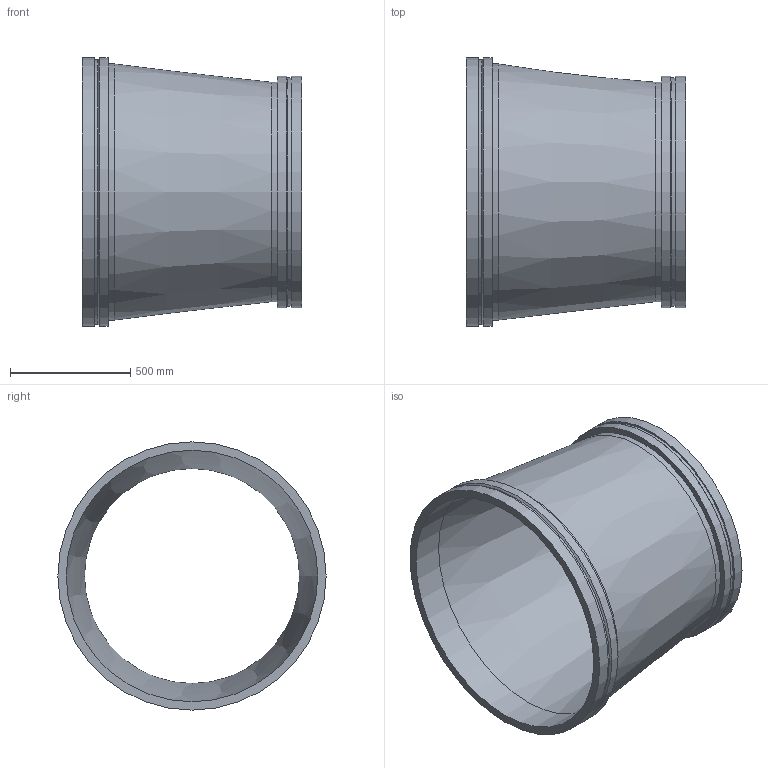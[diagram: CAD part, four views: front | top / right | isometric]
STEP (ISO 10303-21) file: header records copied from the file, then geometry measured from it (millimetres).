
FILE_DESCRIPTION(/* description */ ('VIC REDUCER CONCENTRIC No W50 VR','CAx-IF Rec.Pracs.---Representation and Presentation of Product Manufacturing Information (PMI)---4.0---2014-10-13'),/* implementation_level */ '2;1');
FILE_NAME(/* name */ 'C:\Users\kkamble\AppData\Roaming\Autodesk\ApplicationPlugins\Back Up\Victaulic_Vic-Ring_Reducer Concentric_No W50 VR (AGR)\Victaulic_Vic-Ring_Reducer Concentric_No W50 VR (AGR)_42.0x36.0 (1050x900).stp',/* time_stamp */ '2020-09-10T11:47:39+05:00',/* author */ ('cps_temp'),/* organization */ ('Victaulic'),/* preprocessor_version */ 'ST-DEVELOPER v17.2',/* originating_system */ 'Autodesk Inventor 2019',/* authorisation */ '');
FILE_SCHEMA (('AP242_MANAGED_MODEL_BASED_3D_ENGINEERING_MIM_LF { 1 0 10303 442 1 1 4 }'));
Length unit declared in the file: inch
Products named in the file (1): W50 VR-42.0x36.0
Bounding box: 914.4 x 1117.6 x 1117.6 mm (x, y, z)
Volume: 43036603.8 mm3; surface area: 6154259.3 mm2
Topology: 1 solids, 1 shells, 20 faces, 54 edges, 40 vertices
Faces by surface type: cylinder 10, plane 6, cone 4
Full cylindrical faces by diameter (mm): 895.35 x1, 914.4 x1, 950.722 x1, 965.2 x2, 1047.75 x1, 1066.8 x1, 1101.725 x1, 1117.6 x2
Entity records: 830 total; most frequent: DIRECTION 162, CARTESIAN_POINT 132, ORIENTED_EDGE 108, AXIS2_PLACEMENT_3D 74, EDGE_CURVE 54, CIRCLE 40, VERTEX_POINT 40, EDGE_LOOP 26
